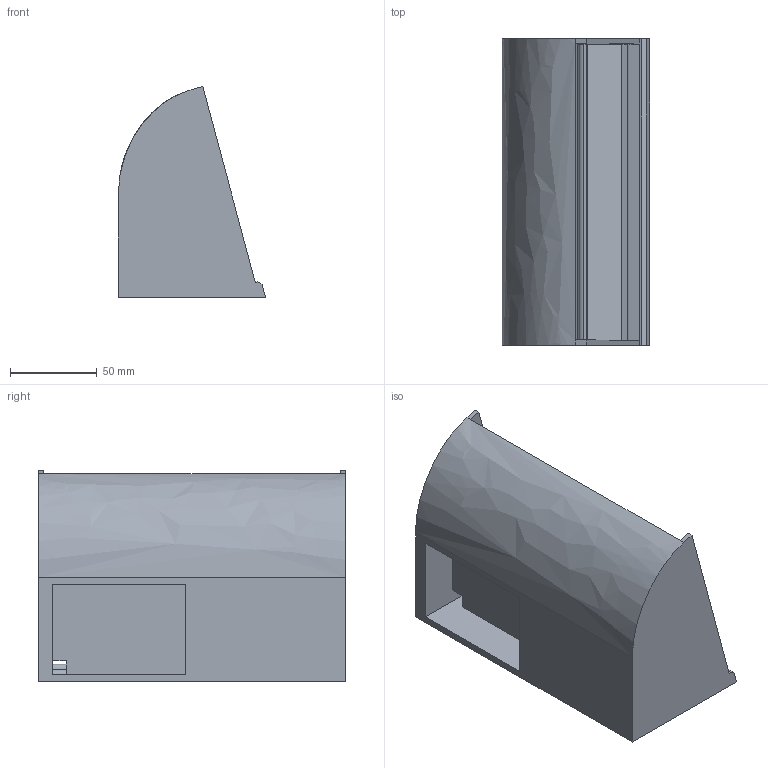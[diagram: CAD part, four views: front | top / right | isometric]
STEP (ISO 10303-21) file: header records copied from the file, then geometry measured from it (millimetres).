
FILE_DESCRIPTION(/* description */ (''),/* implementation_level */ '2;1');
FILE_NAME(/* name */ 'Lithophane_Stand v5.step',/* time_stamp */ '2022-11-23T00:10:15+01:00',/* author */ (''),/* organization */ (''),/* preprocessor_version */ 'ST-DEVELOPER v19.2',/* originating_system */ 'Autodesk Translation Framework v11.17.0.187',/* authorisation */ '');
FILE_SCHEMA (('AUTOMOTIVE_DESIGN { 1 0 10303 214 3 1 1 }'));
Length unit declared in the file: millimetre
Products named in the file (1): Lithophane_Stand
Bounding box: 85 x 177 x 121.85 mm (x, y, z)
Volume: 484341.9 mm3; surface area: 101491.9 mm2
Topology: 1 solids, 1 shells, 33 faces, 93 edges, 61 vertices
Faces by surface type: plane 27, bspline 3, cylinder 3
Entity records: 1125 total; most frequent: CARTESIAN_POINT 264, ORIENTED_EDGE 186, DIRECTION 150, EDGE_CURVE 93, LINE 76, VECTOR 76, VERTEX_POINT 61, AXIS2_PLACEMENT_3D 37
